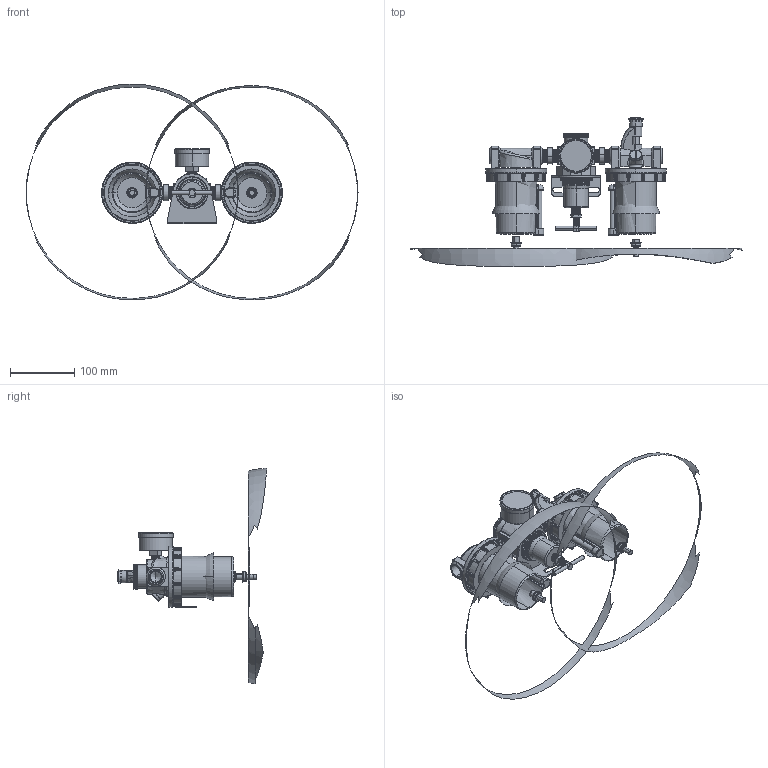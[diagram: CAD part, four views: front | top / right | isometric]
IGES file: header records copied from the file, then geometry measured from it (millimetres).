
Start section: SolidWorks IGES file using analytic representation for surfaces
Global section: file name: D:\Custom\3D繪製\FRL\FRL系列\C668W-04#YB#.IGS; native system: SolidWorks 2014; preprocessor: SolidWorks 2014; author: Chieh_Lu; date: 160115.013036; units: millimetre
Bounding box: 518.09 x 233.04 x 336.82 mm (x, y, z)
Surface area: 221080.4 mm2 (no closed solid volume)
Topology: 0 solids, 0 shells, 1627 faces, 20748 edges, 20725 vertices
Faces by surface type: bspline 920, revolution 707
